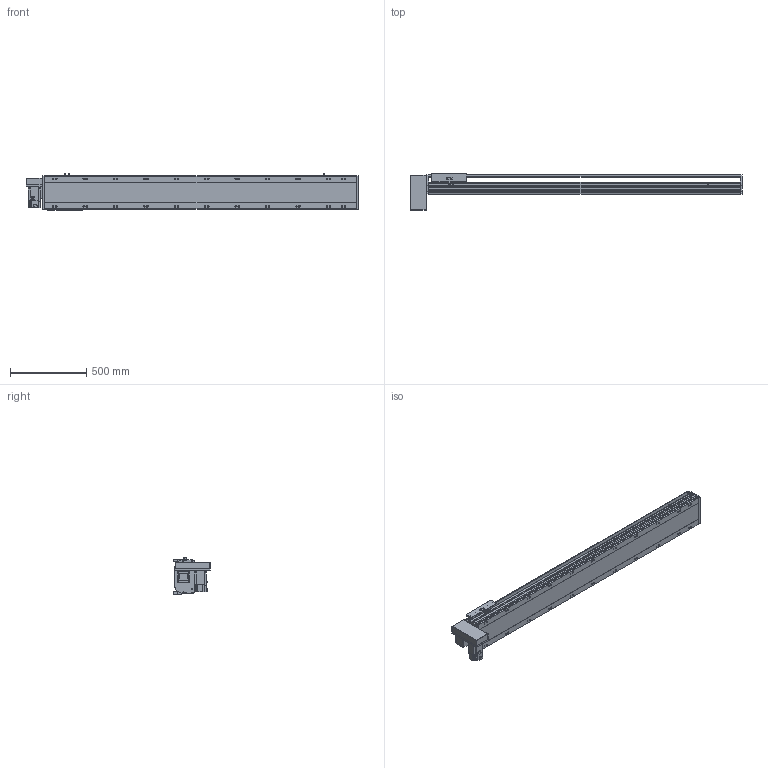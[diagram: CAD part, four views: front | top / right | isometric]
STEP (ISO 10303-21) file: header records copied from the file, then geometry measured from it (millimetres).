
FILE_DESCRIPTION(/* description */ ('STEP AP214'),/* implementation_level */ '2;1');
FILE_NAME(/* name */ 'PBS220-P40-S1700-RD-T75-C1-N(0)',/* time_stamp */ '2022-06-13T02:44:12+02:00',/* author */ ('License CC BY-ND 4.0'),/* organization */ ('CADENAS'),/* preprocessor_version */ 'ST-DEVELOPER v18.102',/* originating_system */ 'PARTsolutions',/* authorisation */ ' ');
FILE_SCHEMA (('AUTOMOTIVE_DESIGN {1 0 10303 214 3 1 1}'));
Length unit declared in the file: millimetre
Products named in the file (7): PBS220-P40-S1700-RD-T75-C1-N(0); PBS220_sensor; PBS220_plant; PBS220_sliser; T75-p1; PBS220T-RD_motors; PBS220-S1700()_body
Assembly tree (8 placements, depth 2):
  PBS220-P40-S1700-RD-T75-C1-N(0)
    PBS220_sensor  x3
    PBS220_plant
    PBS220_sliser
    T75-p1
    PBS220T-RD_motors
    PBS220-S1700()_body
Bounding box: 2184 x 239 x 238.5 mm (x, y, z)
Volume: 30882465.4 mm3; surface area: 2903212.1 mm2
Topology: 8 solids, 8 shells, 950 faces, 2480 edges, 1612 vertices
Faces by surface type: plane 610, cylinder 294, cone 46
Full cylindrical faces by diameter (mm): 2.013 x4, 4.5 x14, 4.917 x4, 6 x7, 6.647 x8, 8 x10, 8.376 x22, 8.5 x22, 10 x6, 14 x22, 38 x2, 40 x1, 70 x1
Entity records: 26565 total; most frequent: CARTESIAN_POINT 4690, DIRECTION 4617, ORIENTED_EDGE 4214, EDGE_CURVE 2107, AXIS2_PLACEMENT_3D 1633, VERTEX_POINT 1464, LINE 1351, VECTOR 1351
